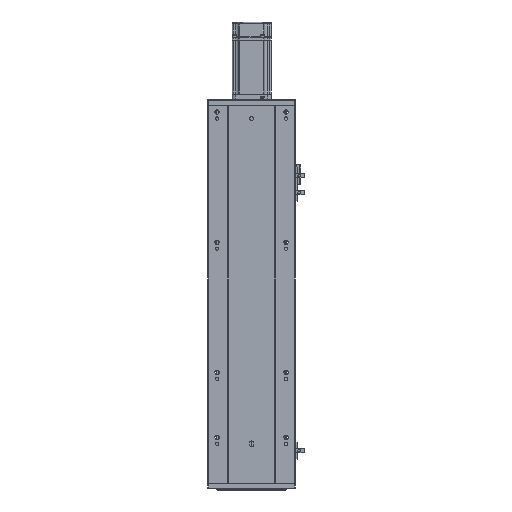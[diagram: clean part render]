
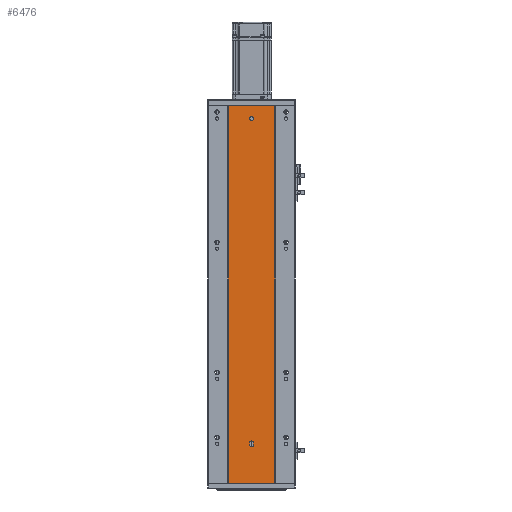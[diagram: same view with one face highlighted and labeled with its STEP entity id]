
A CAD part, front view. The second image highlights one B-rep face of the part: STEP entity #6476.
In plain terms, the highlighted planar face has unit normal (0, -1, 0).
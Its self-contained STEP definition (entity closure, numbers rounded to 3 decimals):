
#995 = CIRCLE ( 'NONE', #30604, 3. ) ;
#1533 = DIRECTION ( 'NONE',  ( 0., 0., 1. ) ) ;
#2302 = EDGE_LOOP ( 'NONE', ( #43991, #37677, #54020, #23004 ) ) ;
#3797 = AXIS2_PLACEMENT_3D ( 'NONE', #37951, #63694, #32534 ) ;
#4003 = CARTESIAN_POINT ( 'NONE',  ( 170.005, 78.746, 581. ) ) ;
#4347 = EDGE_CURVE ( 'NONE', #57695, #22336, #47629, .T. ) ;
#4372 = CARTESIAN_POINT ( 'NONE',  ( 99.005, 78.746, 0. ) ) ;
#6476 = ADVANCED_FACE ( 'NONE', ( #11979, #64968, #52126 ), #49568, .T. ) ;
#6649 = DIRECTION ( 'NONE',  ( 0., -1., 0. ) ) ;
#6828 = CARTESIAN_POINT ( 'NONE',  ( 99.005, 78.746, 581. ) ) ;
#7461 = VECTOR ( 'NONE', #65588, 1000. ) ;
#8493 = CARTESIAN_POINT ( 'NONE',  ( 99.005, 78.746, 581. ) ) ;
#9608 = VERTEX_POINT ( 'NONE', #4372 ) ;
#10261 = ORIENTED_EDGE ( 'NONE', *, *, #45512, .F. ) ;
#11178 = VERTEX_POINT ( 'NONE', #25014 ) ;
#11979 = FACE_BOUND ( 'NONE', #34155, .T. ) ;
#12431 = CARTESIAN_POINT ( 'NONE',  ( 170.005, 78.746, 581. ) ) ;
#12945 = DIRECTION ( 'NONE',  ( 1., 0., 0. ) ) ;
#13836 = LINE ( 'NONE', #6828, #35543 ) ;
#14260 = ORIENTED_EDGE ( 'NONE', *, *, #44090, .F. ) ;
#14828 = EDGE_CURVE ( 'NONE', #29080, #11178, #36390, .T. ) ;
#15004 = AXIS2_PLACEMENT_3D ( 'NONE', #44599, #55545, #24346 ) ;
#16300 = VECTOR ( 'NONE', #1533, 1000. ) ;
#16934 = CARTESIAN_POINT ( 'NONE',  ( 137.505, 78.746, 62.5 ) ) ;
#17688 = AXIS2_PLACEMENT_3D ( 'NONE', #26114, #6649, #42540 ) ;
#18782 = DIRECTION ( 'NONE',  ( 0., -1., 0. ) ) ;
#19027 = EDGE_CURVE ( 'NONE', #22336, #29080, #995, .T. ) ;
#19115 = VERTEX_POINT ( 'NONE', #8493 ) ;
#21255 = CIRCLE ( 'NONE', #17688, 3. ) ;
#22336 = VERTEX_POINT ( 'NONE', #65124 ) ;
#22721 = CARTESIAN_POINT ( 'NONE',  ( 131.505, 78.746, 62.5 ) ) ;
#23004 = ORIENTED_EDGE ( 'NONE', *, *, #66300, .T. ) ;
#23376 = ORIENTED_EDGE ( 'NONE', *, *, #14828, .F. ) ;
#23417 = CIRCLE ( 'NONE', #33110, 3. ) ;
#24346 = DIRECTION ( 'NONE',  ( 1., 0., 0. ) ) ;
#24937 = CARTESIAN_POINT ( 'NONE',  ( 134.505, 78.746, 561. ) ) ;
#25014 = CARTESIAN_POINT ( 'NONE',  ( 137.505, 78.746, 62.5 ) ) ;
#26114 = CARTESIAN_POINT ( 'NONE',  ( 134.505, 78.746, 561. ) ) ;
#26723 = EDGE_CURVE ( 'NONE', #58623, #54585, #36346, .T. ) ;
#28269 = ORIENTED_EDGE ( 'NONE', *, *, #19027, .F. ) ;
#29080 = VERTEX_POINT ( 'NONE', #45025 ) ;
#30604 = AXIS2_PLACEMENT_3D ( 'NONE', #59595, #18782, #12945 ) ;
#32534 = DIRECTION ( 'NONE',  ( 1., 0., 0. ) ) ;
#33110 = AXIS2_PLACEMENT_3D ( 'NONE', #24937, #45650, #61083 ) ;
#33428 = CARTESIAN_POINT ( 'NONE',  ( 134.505, 78.746, 564. ) ) ;
#33932 = VECTOR ( 'NONE', #53969, 1000. ) ;
#34155 = EDGE_LOOP ( 'NONE', ( #58540, #23376, #28269, #35384 ) ) ;
#35384 = ORIENTED_EDGE ( 'NONE', *, *, #4347, .F. ) ;
#35395 = LINE ( 'NONE', #63430, #61048 ) ;
#35543 = VECTOR ( 'NONE', #42700, 1000. ) ;
#36346 = LINE ( 'NONE', #4003, #7461 ) ;
#36390 = LINE ( 'NONE', #16934, #16300 ) ;
#37677 = ORIENTED_EDGE ( 'NONE', *, *, #26723, .F. ) ;
#37951 = CARTESIAN_POINT ( 'NONE',  ( 134.505, 78.746, 62.5 ) ) ;
#38835 = EDGE_LOOP ( 'NONE', ( #14260, #10261 ) ) ;
#39264 = LINE ( 'NONE', #46094, #49723 ) ;
#42540 = DIRECTION ( 'NONE',  ( 1., 0., 0. ) ) ;
#42700 = DIRECTION ( 'NONE',  ( 0., 0., -1. ) ) ;
#43991 = ORIENTED_EDGE ( 'NONE', *, *, #59728, .F. ) ;
#44090 = EDGE_CURVE ( 'NONE', #57346, #55114, #23417, .T. ) ;
#44599 = CARTESIAN_POINT ( 'NONE',  ( 0., 78.746, 581. ) ) ;
#44681 = CARTESIAN_POINT ( 'NONE',  ( 131.505, 78.746, 62.5 ) ) ;
#45025 = CARTESIAN_POINT ( 'NONE',  ( 137.505, 78.746, 59.5 ) ) ;
#45512 = EDGE_CURVE ( 'NONE', #55114, #57346, #21255, .T. ) ;
#45650 = DIRECTION ( 'NONE',  ( 0., -1., 0. ) ) ;
#46094 = CARTESIAN_POINT ( 'NONE',  ( 0., 78.746, 581. ) ) ;
#47629 = LINE ( 'NONE', #22721, #33932 ) ;
#49568 = PLANE ( 'NONE',  #15004 ) ;
#49723 = VECTOR ( 'NONE', #51460, 1000. ) ;
#51460 = DIRECTION ( 'NONE',  ( -1., 0., 0. ) ) ;
#52126 = FACE_OUTER_BOUND ( 'NONE', #2302, .T. ) ;
#52947 = DIRECTION ( 'NONE',  ( -1., 0., 0. ) ) ;
#53969 = DIRECTION ( 'NONE',  ( 0., 0., -1. ) ) ;
#54020 = ORIENTED_EDGE ( 'NONE', *, *, #54124, .T. ) ;
#54124 = EDGE_CURVE ( 'NONE', #58623, #19115, #39264, .T. ) ;
#54585 = VERTEX_POINT ( 'NONE', #63020 ) ;
#55114 = VERTEX_POINT ( 'NONE', #33428 ) ;
#55545 = DIRECTION ( 'NONE',  ( 0., -1., 0. ) ) ;
#57346 = VERTEX_POINT ( 'NONE', #64298 ) ;
#57695 = VERTEX_POINT ( 'NONE', #44681 ) ;
#58540 = ORIENTED_EDGE ( 'NONE', *, *, #60262, .F. ) ;
#58623 = VERTEX_POINT ( 'NONE', #12431 ) ;
#59595 = CARTESIAN_POINT ( 'NONE',  ( 134.505, 78.746, 59.5 ) ) ;
#59728 = EDGE_CURVE ( 'NONE', #54585, #9608, #35395, .T. ) ;
#60262 = EDGE_CURVE ( 'NONE', #11178, #57695, #64873, .T. ) ;
#61048 = VECTOR ( 'NONE', #52947, 1000. ) ;
#61083 = DIRECTION ( 'NONE',  ( 1., 0., 0. ) ) ;
#63020 = CARTESIAN_POINT ( 'NONE',  ( 170.005, 78.746, 0. ) ) ;
#63430 = CARTESIAN_POINT ( 'NONE',  ( 0., 78.746, 0. ) ) ;
#63694 = DIRECTION ( 'NONE',  ( 0., -1., 0. ) ) ;
#64298 = CARTESIAN_POINT ( 'NONE',  ( 134.505, 78.746, 558. ) ) ;
#64873 = CIRCLE ( 'NONE', #3797, 3. ) ;
#64968 = FACE_BOUND ( 'NONE', #38835, .T. ) ;
#65124 = CARTESIAN_POINT ( 'NONE',  ( 131.505, 78.746, 59.5 ) ) ;
#65588 = DIRECTION ( 'NONE',  ( 0., 0., -1. ) ) ;
#66300 = EDGE_CURVE ( 'NONE', #19115, #9608, #13836, .T. ) ;
